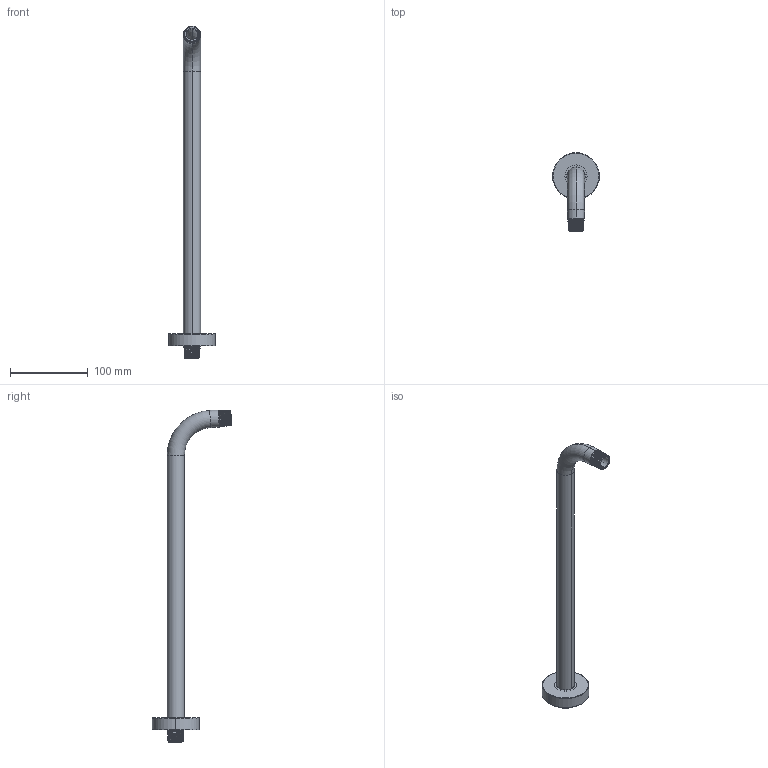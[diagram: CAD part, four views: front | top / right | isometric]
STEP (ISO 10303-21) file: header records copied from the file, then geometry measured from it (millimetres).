
FILE_DESCRIPTION (( 'STEP AP214' ), '1' );
FILE_NAME ('BRA-1612-42-3D.STEP', '2023-12-19T18:05:57', ( '' ), ( '' ), 'SwSTEP 2.0', 'SolidWorks 2022', '' );
FILE_SCHEMA (( 'AUTOMOTIVE_DESIGN' ));
Length unit declared in the file: millimetre
Products named in the file (6): BRA-1612-423.STEP; BRA-1612-422.STEP; BRA-1612-42; BRA-1612-42.STEP; BRA-1612-42-3D; BRA-1612-421.STEP
Assembly tree (5 placements, depth 4):
  BRA-1612-42-3D
    BRA-1612-42
      BRA-1612-42.STEP
        BRA-1612-421.STEP
        BRA-1612-422.STEP
        BRA-1612-423.STEP
Bounding box: 60 x 101.54 x 426 mm (x, y, z)
Volume: 96136.8 mm3; surface area: 68064.9 mm2
Topology: 3 solids, 3 shells, 115 faces, 277 edges, 172 vertices
Faces by surface type: cone 49, cylinder 20, torus 18, bspline 16, plane 12
Entity records: 7740 total; most frequent: CARTESIAN_POINT 5057, ORIENTED_EDGE 554, DIRECTION 471, EDGE_CURVE 277, AXIS2_PLACEMENT_3D 201, VERTEX_POINT 172, EDGE_LOOP 125, B_SPLINE_CURVE_WITH_KNOTS 116
